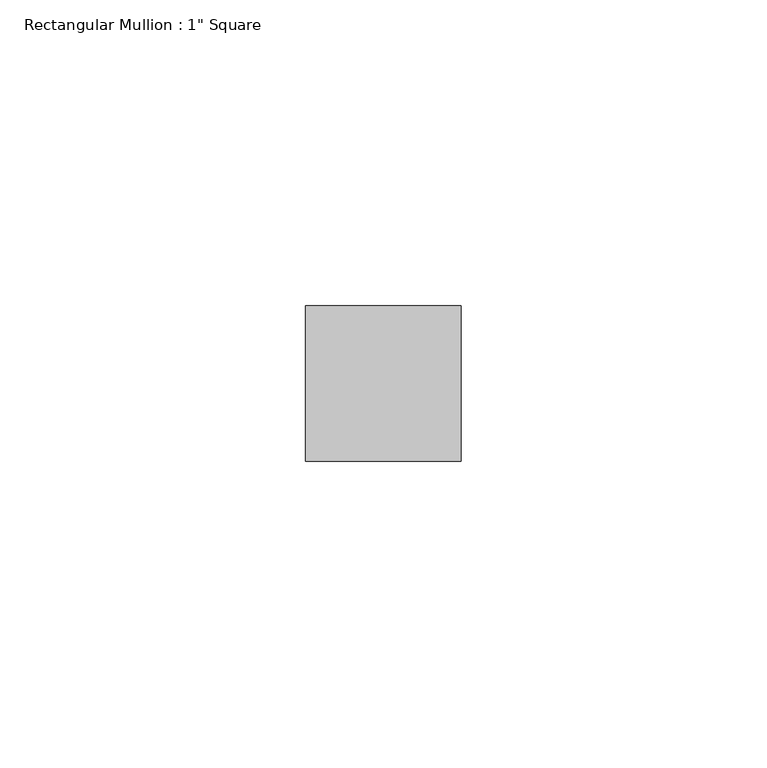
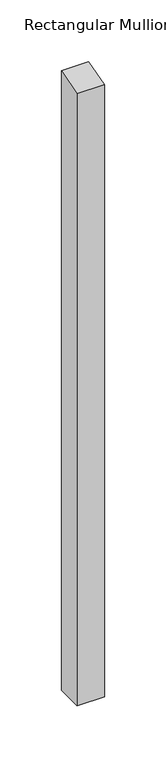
"""IFC4 building model written with IfcOpenShell, lengths in millimetres: member geometry."""

import ifcopenshell
import ifcopenshell.guid

model = None  # the IFC model being written
_history = None  # IfcOwnerHistory: only IFC2X3 demands one
_inside = {}  # id of a spatial element -> (the spatial element, [elements in it])
_under = {}  # id of a project, library or spatial element -> (it, [spatial elements below it])
_declared = {}  # id of a project -> (the project, [libraries it declares])
_typed = {}  # id of a type object -> (the type object, [elements of that type])
_made_of = {}  # id of a material, layer set ... -> (it, [elements and type objects made of it])


def new_model(schema):
    """Start an empty IFC model of exactly this schema.

    Asked for "IFC4X3", IfcOpenShell would pick the latest addendum, in which some entities
    have other attributes; the version numbers below select the first issue.
    IFC2X3 requires an IfcOwnerHistory on every rooted entity: one is made here for all.
    """
    global model, _history
    if schema == "IFC4X3":
        model = ifcopenshell.file(schema_version=(4, 3, 0, 0))
    else:
        model = ifcopenshell.file(schema=schema)
    _inside.clear()
    _under.clear()
    _declared.clear()
    _typed.clear()
    _made_of.clear()
    _history = None
    if model.schema == "IFC2X3":
        org = make("IfcOrganization", Name="unknown")
        user = make(
            "IfcPersonAndOrganization",
            ThePerson=make("IfcPerson", FamilyName="unknown"),
            TheOrganization=org,
        )
        app = make(
            "IfcApplication",
            ApplicationDeveloper=org,
            Version="unknown",
            ApplicationFullName="unknown",
            ApplicationIdentifier="unknown",
        )
        _history = make(
            "IfcOwnerHistory",
            OwningUser=user,
            OwningApplication=app,
            ChangeAction="ADDED",
            CreationDate=0,
        )
    return model


def make(cls, **values):
    """One entity of the class cls with the attributes given. An attribute that is None is left unset."""
    return model.create_entity(
        cls, **{name: value for name, value in values.items() if value is not None}
    )


def rooted(cls, **values):
    """An entity with a GlobalId (a new one), such as an element, a storey or a relation."""
    return make(cls, GlobalId=ifcopenshell.guid.new(), OwnerHistory=_history, **values)


def si_unit(unit_type, name, prefix=None):
    """IfcSIUnit, for example si_unit("LENGTHUNIT", "METRE", prefix="MILLI")."""
    return make("IfcSIUnit", UnitType=unit_type, Prefix=prefix, Name=name)


def assignment(units):
    """IfcUnitAssignment: the units of a project."""
    return None if units is None else make("IfcUnitAssignment", Units=units)


def point(xyz):
    """IfcCartesianPoint."""
    return None if xyz is None else make("IfcCartesianPoint", Coordinates=xyz)


def direction(xyz):
    """IfcDirection."""
    return None if xyz is None else make("IfcDirection", DirectionRatios=xyz)


def frame(location, z_axis=None, x_axis=None):
    """IfcAxis2Placement3D, a coordinate frame: its origin and axes. An axis left out is left unset."""
    return make(
        "IfcAxis2Placement3D",
        Location=point(location),
        Axis=direction(z_axis),
        RefDirection=direction(x_axis),
    )


def origin():
    """The frame at (0, 0, 0) with its axes left unset."""
    return frame((0.0, 0.0, 0.0))


def place(relative_to, where):
    """IfcLocalPlacement: puts the frame where relative to a parent placement (None: the world)."""
    return make(
        "IfcLocalPlacement", PlacementRelTo=relative_to, RelativePlacement=where
    )


def context(
    kind, dimensions, precision=None, world=None, true_north=None, identifier=None
):
    """IfcGeometricRepresentationContext, for example the 3D "Model" context."""
    return make(
        "IfcGeometricRepresentationContext",
        ContextIdentifier=identifier,
        ContextType=kind,
        CoordinateSpaceDimension=dimensions,
        Precision=precision,
        WorldCoordinateSystem=world,
        TrueNorth=true_north,
    )


def project(units=None, contexts=None):
    """IfcProject with its units and contexts."""
    return rooted(
        "IfcProject",
        Name="project",
        RepresentationContexts=contexts,
        UnitsInContext=assignment(units),
    )


def spatial(cls, under=None, at=None, **own):
    """A site, building, storey or space (cls), placed at a placement, below another one or the project."""
    s = rooted(cls, ObjectPlacement=at, **own)
    if under is not None:
        _under.setdefault(under.id(), (under, []))[1].append(s)
    return s


def faces_of(points, faces, orient=None, outer=None):
    """IfcFace entities. A face is a list of loops; a loop is a list of indices into points, from 0.

    orient and outer hold one flag for each loop. By default every Orientation is true, the
    first loop of a face is its IfcFaceOuterBound and the others are IfcFaceBound.
    """
    made = []
    for i, loops in enumerate(faces):
        bounds = []
        for j, loop in enumerate(loops):
            is_outer = j == 0 if outer is None else outer[i][j]
            bounds.append(
                make(
                    "IfcFaceOuterBound" if is_outer else "IfcFaceBound",
                    Bound=make("IfcPolyLoop", Polygon=[points[k] for k in loop]),
                    Orientation=True if orient is None else orient[i][j],
                )
            )
        made.append(make("IfcFace", Bounds=bounds))
    return made


def faceted_brep(points, faces, orient=None, outer=None, voids=None):
    """IfcFacetedBrep: a solid bounded by flat faces; with voids (closed shells), ...WithVoids."""
    shared = [point(p) for p in points]
    hull = make("IfcClosedShell", CfsFaces=faces_of(shared, faces, orient, outer))
    if voids is None:
        return make("IfcFacetedBrep", Outer=hull)
    return make(
        "IfcFacetedBrepWithVoids",
        Outer=hull,
        Voids=[
            make(cls, CfsFaces=faces_of(shared, fs, o, b)) for cls, fs, o, b in voids
        ],
    )


def shape(context_of_items, identifier, shape_type, items):
    """IfcShapeRepresentation: the items that make up one representation, for example the "Body"."""
    return make(
        "IfcShapeRepresentation",
        ContextOfItems=context_of_items,
        RepresentationIdentifier=identifier,
        RepresentationType=shape_type,
        Items=items,
    )


def source(mapping_origin, context_of_items, identifier, shape_type, items):
    """IfcRepresentationMap: a shape defined once, which mapped items show again and again."""
    return make(
        "IfcRepresentationMap",
        MappingOrigin=mapping_origin,
        MappedRepresentation=shape(context_of_items, identifier, shape_type, items),
    )


def transform(
    local_origin,
    x_axis=None,
    y_axis=None,
    z_axis=None,
    scale=None,
    scale2=None,
    scale3=None,
    uniform=True,
):
    """IfcCartesianTransformationOperator3D, or its non-uniform kind. x_axis, y_axis, z_axis: its Axis1, 2, 3."""
    if uniform:
        return make(
            "IfcCartesianTransformationOperator3D",
            Axis1=direction(x_axis),
            Axis2=direction(y_axis),
            LocalOrigin=point(local_origin),
            Scale=scale,
            Axis3=direction(z_axis),
        )
    return make(
        "IfcCartesianTransformationOperator3DnonUniform",
        Axis1=direction(x_axis),
        Axis2=direction(y_axis),
        LocalOrigin=point(local_origin),
        Scale=scale,
        Axis3=direction(z_axis),
        Scale2=scale2,
        Scale3=scale3,
    )


def mapped(mapping_source, mapping_target):
    """IfcMappedItem: shows the shape of a source again, moved by a transform."""
    return make(
        "IfcMappedItem", MappingSource=mapping_source, MappingTarget=mapping_target
    )


def made_of(thing, what):
    """Note that an element or type object is made of a material, layer set ...; save() writes the relation."""
    if what is not None:
        _made_of.setdefault(what.id(), (what, []))[1].append(thing)
    return thing


def element(
    cls,
    number,
    at=None,
    inside=None,
    cuts=None,
    type_object=None,
    material=None,
    context=None,
    identifier="Body",
    shape_type=None,
    held_by="IfcProductDefinitionShape",
    body=None,
    shapes=None,
    **own,
):
    """One element of the class cls, such as IfcWall. Its Tag is "e" and its number.

    at: its placement. inside: the storey or other place that contains it. cuts: it is an
    opening in that element (IfcRelVoidsElement). A single representation is given by context,
    identifier, shape_type and body (its items); several are given by shapes. held_by: the class
    of the entity that holds the representations. save() writes the other relations.
    """
    e = rooted(cls, Tag="e%d" % number, ObjectPlacement=at, **own)
    if body is not None:
        shapes = [shape(context, identifier, shape_type, body)]
    if shapes is not None:
        e.Representation = make(held_by, Representations=shapes)
    if inside is not None:
        _inside.setdefault(inside.id(), (inside, []))[1].append(e)
    if cuts is not None:
        rooted(
            "IfcRelVoidsElement", RelatingBuildingElement=cuts, RelatedOpeningElement=e
        )
    if type_object is not None:
        _typed.setdefault(type_object.id(), (type_object, []))[1].append(e)
    return made_of(e, material)


def aggregate(whole, parts):
    """IfcRelAggregates: a whole, such as a stair, and the parts it consists of."""
    return rooted("IfcRelAggregates", RelatingObject=whole, RelatedObjects=parts)


def save(model, path):
    """Write the relations noted so far, then the file.

    IfcRelAggregates (storeys below a building ...), IfcRelContainedInSpatialStructure (elements
    in a storey), IfcRelDefinesByType, IfcRelAssociatesMaterial and IfcRelDeclares: one each for
    every whole, place, type object, material and project.
    """
    for whole, parts in _under.values():
        aggregate(whole, parts)
    for where, things in _inside.values():
        rooted(
            "IfcRelContainedInSpatialStructure",
            RelatedElements=things,
            RelatingStructure=where,
        )
    for kind, things in _typed.values():
        rooted("IfcRelDefinesByType", RelatedObjects=things, RelatingType=kind)
    for what, things in _made_of.values():
        rooted("IfcRelAssociatesMaterial", RelatedObjects=things, RelatingMaterial=what)
    for by, libraries in _declared.values():
        rooted("IfcRelDeclares", RelatingContext=by, RelatedDefinitions=libraries)
    model.write(path)


def member_a86ed3bc(model_context):
    return source(origin(), model_context, "Body", "Brep", [
        faceted_brep([(0.0, 12.7, -609.6), (0.0, -12.7, -609.6), (-25.4, -12.7, -609.6), (-25.4, 12.7, -609.6), (-25.4, 12.7, 3.5406607), (0.0, 12.7, 3.7075019), (-25.4, -12.7, -3.8743431), (0.0, -12.7, -3.7075019)], [[[0, 1, 2, 3]], [[4, 5, 0, 3]], [[6, 4, 3, 2]], [[7, 6, 2, 1]], [[5, 7, 1, 0]], [[5, 4, 6, 7]]]),
    ])


if __name__ == "__main__":
    model = new_model("IFC4")
    model_context = context("Model", 3, world=origin())
    ifc_project = project(units=[si_unit("LENGTHUNIT", "METRE", prefix="MILLI")], contexts=[model_context])
    site = spatial("IfcSite", under=ifc_project)
    building = spatial("IfcBuilding", under=site)
    placement = place(None, origin())
    member_shape = member_a86ed3bc(model_context)
    element("IfcMember", 1, ObjectType="Rectangular Mullion : 1\" Square", at=placement, inside=building, context=model_context, shape_type="MappedRepresentation", body=[
        mapped(member_shape, transform((0.0, 0.0, 0.0), x_axis=(1.0, 0.0, 0.0), y_axis=(0.0, 1.0, 0.0), z_axis=(0.0, 0.0, 1.0))),
    ])
    save(model, "model.ifc")
